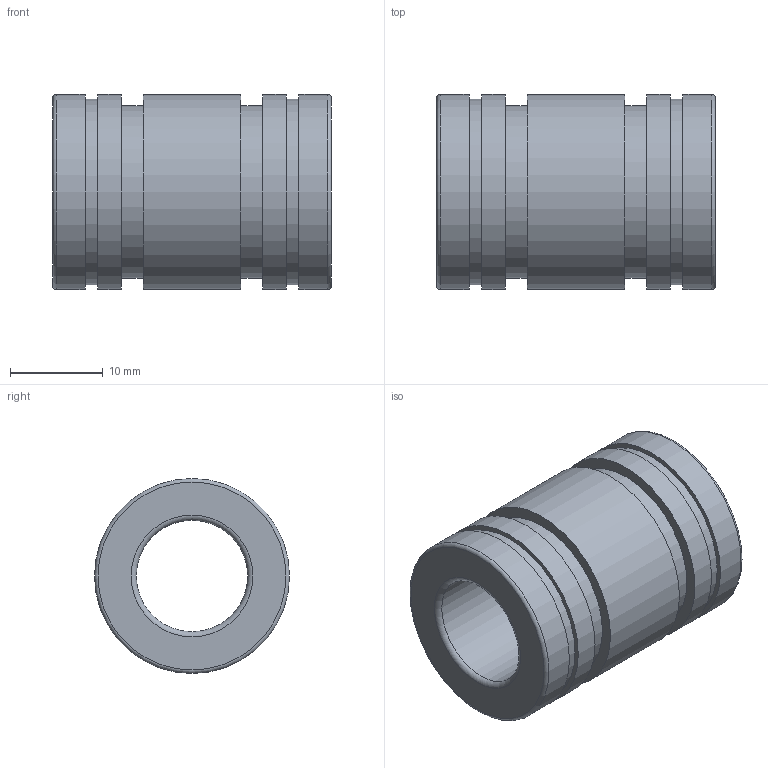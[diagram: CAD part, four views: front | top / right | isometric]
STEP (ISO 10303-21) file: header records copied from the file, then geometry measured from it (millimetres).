
FILE_DESCRIPTION(('STEP AP203'),'1');
FILE_NAME('//192.168.1.1/share/s-4 技術開発/s-4-4_CAD/s-4-4-3_見直し済み/PBC LINEAR修正済み/3D途中/FJ/FJ12.step','2022-03-24T06:58:35',(' '),(' '),'Spatial InterOp 3D',' ',' ');
FILE_SCHEMA(('CONFIG_CONTROL_DESIGN'));
Length unit declared in the file: millimetre
Products named in the file (1): 1
Bounding box: 30 x 21 x 21 mm (x, y, z)
Volume: 6541.7 mm3; surface area: 3926 mm2
Topology: 1 solids, 1 shells, 24 faces, 38 edges, 24 vertices
Faces by surface type: cylinder 10, plane 10, torus 4
Full cylindrical faces by diameter (mm): 12 x1, 18.546 x2, 20 x2, 21 x5
Entity records: 532 total; most frequent: DIRECTION 98, CARTESIAN_POINT 73, AXIS2_PLACEMENT_3D 49, EDGE_LOOP 48, ORIENTED_EDGE 48, FACE_OUTER_BOUND 38, ADVANCED_FACE 24, EDGE_CURVE 24
